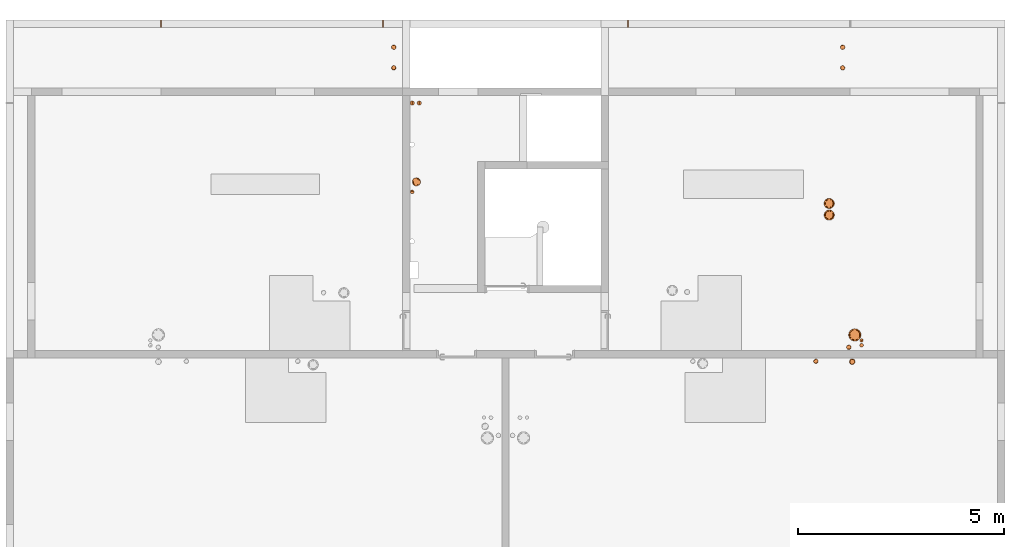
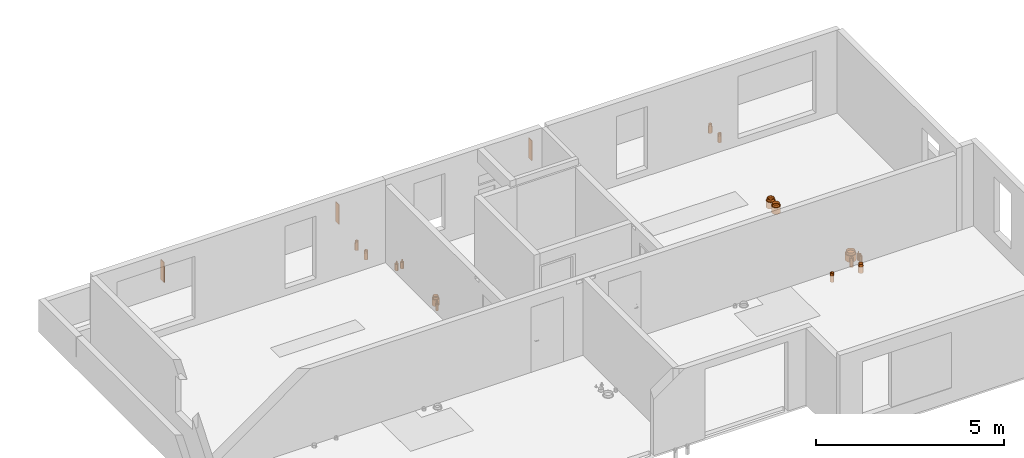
# One storey, part 24 of 28: 19 proxies.
"""IFC2X3 building model written with IfcOpenShell, lengths in centimetres."""

from ifc_helpers import new_model, entity, si_unit, converted_unit, derived_unit, direction, frame, frame_2d, origin, origin_2d_with_axis, place, context, subcontext, project, spatial, rectangle, circle, hollow_circle, extrude, source, transform, mapped, material, type_object, type_shapes, element, save


model = new_model("IFC2X3")

# Units and contexts
model_context = context("Model", 3, precision=0.001, world=origin(), true_north=direction((6.12303176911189e-17, 1.0)))
body_context = subcontext(model_context, "Body", "Model", "MODEL_VIEW")
ifc_project = project(units=[si_unit("LENGTHUNIT", "METRE", prefix="CENTI"), si_unit("AREAUNIT", "SQUARE_METRE"), si_unit("VOLUMEUNIT", "CUBIC_METRE"), converted_unit("PLANEANGLEUNIT", "DEGREE", entity("IfcRatioMeasure", 0.0174532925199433), si_unit("PLANEANGLEUNIT", "RADIAN"), dimensions=[0, 0, 0, 0, 0, 0, 0]), si_unit("MASSUNIT", "GRAM", prefix="KILO"), derived_unit("MASSDENSITYUNIT", [(si_unit("MASSUNIT", "GRAM", prefix="KILO"), 1), (si_unit("LENGTHUNIT", "METRE"), -3)]), si_unit("TIMEUNIT", "SECOND"), si_unit("FREQUENCYUNIT", "HERTZ"), si_unit("THERMODYNAMICTEMPERATUREUNIT", "DEGREE_CELSIUS"), derived_unit("THERMALTRANSMITTANCEUNIT", [(si_unit("MASSUNIT", "GRAM", prefix="KILO"), 1), (si_unit("THERMODYNAMICTEMPERATUREUNIT", "KELVIN"), -1), (si_unit("TIMEUNIT", "SECOND"), -3)]), derived_unit("VOLUMETRICFLOWRATEUNIT", [(si_unit("LENGTHUNIT", "METRE"), 3), (si_unit("TIMEUNIT", "SECOND"), -1)]), si_unit("ELECTRICCURRENTUNIT", "AMPERE"), si_unit("ELECTRICVOLTAGEUNIT", "VOLT"), si_unit("POWERUNIT", "WATT"), si_unit("FORCEUNIT", "NEWTON"), si_unit("ILLUMINANCEUNIT", "LUX"), si_unit("LUMINOUSFLUXUNIT", "LUMEN"), si_unit("LUMINOUSINTENSITYUNIT", "CANDELA"), derived_unit("USERDEFINED", [(si_unit("MASSUNIT", "GRAM", prefix="KILO"), -1), (si_unit("LENGTHUNIT", "METRE"), -2), (si_unit("TIMEUNIT", "SECOND"), 3), (si_unit("LUMINOUSFLUXUNIT", "LUMEN"), 1)]), derived_unit("LINEARVELOCITYUNIT", [(si_unit("LENGTHUNIT", "METRE"), 1), (si_unit("TIMEUNIT", "SECOND"), -1)]), si_unit("PRESSUREUNIT", "PASCAL"), derived_unit("USERDEFINED", [(si_unit("LENGTHUNIT", "METRE"), -2), (si_unit("MASSUNIT", "GRAM", prefix="KILO"), 1), (si_unit("TIMEUNIT", "SECOND"), -2)])], contexts=[model_context])

# Site, building, storey
site_placement = place(None, origin())
site = spatial("IfcSite", under=ifc_project, at=site_placement, Name="Default", CompositionType="ELEMENT")
building_placement = place(site_placement, origin())
building = spatial("IfcBuilding", under=site, at=building_placement, Name="CAGE 03", CompositionType="ELEMENT")
storey_placement = place(building_placement, frame((0.0, 0.0, 1420.0)))
storey = spatial("IfcBuildingStorey", under=building, at=storey_placement, Name="R+5", CompositionType="ELEMENT", Elevation=1420.0)

# Proxies
ifc_material_1 = material(Name="BBGO_Résa")
building_element_proxy_type_1 = type_object("IfcBuildingElementProxyType", Name="J.F.", PredefinedType="NOTDEFINED", material=ifc_material_1)
shared_shape_1 = source(origin(), body_context, "Body", "SweptSolid", [
    extrude(rectangle(XDim=1.99999999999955, YDim=18.0000000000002, at=frame_2d((0.0, -8.65973959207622e-13), x_axis=(1.0, 0.0))), frame((6246.36582014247, 5284.66066607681, 1460.0)), (0.0, 0.0, 1.0), 64.9999999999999),
])
type_shapes(building_element_proxy_type_1, [shared_shape_1])
proxy_1_placement = place(storey_placement, frame((0.0, 0.0, -1420.0)))
element("IfcBuildingElementProxy", 1, at=proxy_1_placement, inside=storey, type_object=building_element_proxy_type_1, material=ifc_material_1, Name="BBGO-Résa rect et circ:J.F.", ObjectType="J.F.", context=body_context, shape_type="MappedRepresentation", body=[
    mapped(shared_shape_1, transform((0.0, 0.0, 0.0), scale=1.0)),
])
building_element_proxy_type_2 = type_object("IfcBuildingElementProxyType", Name="J.F.", PredefinedType="NOTDEFINED", material=ifc_material_1)
shared_shape_2 = source(origin(), body_context, "Body", "SweptSolid", [
    extrude(rectangle(XDim=1.99999999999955, YDim=18.0000000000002, at=origin_2d_with_axis()), frame((6784.3658201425, 5284.6606660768, 1460.0)), (0.0, 0.0, 1.0), 64.9999999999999),
])
type_shapes(building_element_proxy_type_2, [shared_shape_2])
proxy_2_placement = place(storey_placement, frame((0.0, 0.0, -1420.0)))
element("IfcBuildingElementProxy", 2, at=proxy_2_placement, inside=storey, type_object=building_element_proxy_type_2, material=ifc_material_1, Name="BBGO-Résa rect et circ:J.F.", ObjectType="J.F.", context=body_context, shape_type="MappedRepresentation", body=[
    mapped(shared_shape_2, transform((0.0, 0.0, 0.0), scale=1.0)),
])
building_element_proxy_type_3 = type_object("IfcBuildingElementProxyType", Name="J.F.", PredefinedType="NOTDEFINED", material=ifc_material_1)
shared_shape_3 = source(origin(), body_context, "Body", "SweptSolid", [
    extrude(rectangle(XDim=1.99999999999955, YDim=18.0000000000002, at=frame_2d((0.0, -8.65973959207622e-13), x_axis=(1.0, 0.0))), frame((7378.3658201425, 5284.6606660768, 1460.0)), (0.0, 0.0, 1.0), 64.9999999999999),
])
type_shapes(building_element_proxy_type_3, [shared_shape_3])
proxy_3_placement = place(storey_placement, frame((0.0, 0.0, -1420.0)))
element("IfcBuildingElementProxy", 3, at=proxy_3_placement, inside=storey, type_object=building_element_proxy_type_3, material=ifc_material_1, Name="BBGO-Résa rect et circ:J.F.", ObjectType="J.F.", context=body_context, shape_type="MappedRepresentation", body=[
    mapped(shared_shape_3, transform((0.0, 0.0, 0.0), scale=1.0)),
])
ifc_material_2 = material(Name="Conduit VMC")
building_element_proxy_type_4 = type_object("IfcBuildingElementProxyType", Name="CFO235 P210", PredefinedType="NOTDEFINED", material=ifc_material_2)
shared_shape_4 = source(origin(), body_context, "Body", "SweptSolid", [
    extrude(circle(Radius=12.5, at=frame_2d((0.0, -2.01943071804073e-14), x_axis=(1.0, 0.0))), frame((0.0, 0.0, -21.0)), (0.0, 0.0, 1.0), 21.0),
    extrude(hollow_circle(Radius=10.0, WallThickness=0.5, at=frame_2d((0.0, -1.61554457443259e-14), x_axis=(1.0, 0.0))), frame((0.0, 0.0, -21.0)), (0.0, 0.0, 1.0), 28.5),
])
type_shapes(building_element_proxy_type_4, [shared_shape_4])
for number, where, name in (
    (4, (7866.12110627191, 4848.9015173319, 0.0), "Galette - Résa - PVC4:CFO235 P210"),
    (5, (7866.12110627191, 4820.81133445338, 0.0), "Galette - Résa - PVC4:CFO235 P210"),
):
    element("IfcBuildingElementProxy", number, at=place(storey_placement, frame(where)), inside=storey, type_object=building_element_proxy_type_4, material=ifc_material_2, Name=name, ObjectType="CFO235 P210", context=body_context, shape_type="MappedRepresentation", body=[
        mapped(shared_shape_4, transform((0.0, 0.0, 0.0), scale=1.0)),
    ])
ifc_material_3 = material(Name="Conduit EP")
building_element_proxy_type_5 = type_object("IfcBuildingElementProxyType", Name="EP 101", PredefinedType="NOTDEFINED", material=ifc_material_3)
shared_shape_5 = source(origin(), body_context, "Body", "SweptSolid", [
    extrude(circle(Radius=5.5, at=frame_2d((0.0, -8.88549515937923e-15), x_axis=(1.0, 0.0))), frame((0.0, 0.0, -21.0)), (0.0, 0.0, 1.0), 21.0),
    extrude(hollow_circle(Radius=5.0, WallThickness=0.25, at=frame_2d((0.0, -8.07772287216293e-15), x_axis=(1.0, 0.0))), frame((0.0, 0.0, -21.0)), (0.0, 0.0, 1.0), 28.5),
])
type_shapes(building_element_proxy_type_5, [shared_shape_5])
for number, where, name in (
    (6, (6810.59388087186, 5227.66066606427, 0.0), "Galette - Résa - PVC4:EP 101"),
    (7, (6810.59388930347, 5177.66066606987, 0.0), "Galette - Résa - PVC4:EP 101"),
    (8, (7898.63697063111, 5227.66066606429, 0.0), "Galette - Résa - PVC4:EP 101"),
    (9, (7898.63697906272, 5177.66066606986, 0.0), "Galette - Résa - PVC4:EP 101"),
):
    element("IfcBuildingElementProxy", number, at=place(storey_placement, frame(where)), inside=storey, type_object=building_element_proxy_type_5, material=ifc_material_3, Name=name, ObjectType="EP 101", context=body_context, shape_type="MappedRepresentation", body=[
        mapped(shared_shape_5, transform((0.0, 0.0, 0.0), scale=1.0)),
    ])
ifc_material_4 = material(Name="Conduit EU")
building_element_proxy_type_6 = type_object("IfcBuildingElementProxyType", Name="CFO125 P110", PredefinedType="NOTDEFINED", material=ifc_material_4)
shared_shape_6 = source(origin(), body_context, "Body", "SweptSolid", [
    extrude(circle(Radius=5.5, at=frame_2d((0.0, -8.88549515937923e-15), x_axis=(1.0, 0.0))), frame((0.0, 0.0, -21.0)), (0.0, 0.0, 1.0), 21.0),
    extrude(hollow_circle(Radius=5.0, WallThickness=0.25, at=frame_2d((0.0, -8.07772287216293e-15), x_axis=(1.0, 0.0))), frame((0.0, 0.0, -21.0)), (0.0, 0.0, 1.0), 28.5),
])
type_shapes(building_element_proxy_type_6, [shared_shape_6])
for number, where, name in (
    (10, (7913.6997706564, 4500.32488712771, 0.0), "Galette - Résa - PVC4:CFO125 P110"),
    (11, (7833.87946784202, 4466.32821753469, 0.0), "Galette - Résa - PVC4:CFO125 P110"),
):
    element("IfcBuildingElementProxy", number, at=place(storey_placement, frame(where)), inside=storey, type_object=building_element_proxy_type_6, material=ifc_material_4, Name=name, ObjectType="CFO125 P110", context=body_context, shape_type="MappedRepresentation", body=[
        mapped(shared_shape_6, transform((0.0, 0.0, 0.0), scale=1.0)),
    ])
ifc_material_5 = material(Name="Circuit CHF Aller")
building_element_proxy_type_7 = type_object("IfcBuildingElementProxyType", Name="CHF Aller 41", PredefinedType="NOTDEFINED", material=ifc_material_5)
shared_shape_7 = source(origin(), body_context, "Body", "SweptSolid", [
    extrude(circle(Radius=5.0, at=frame_2d((0.0, -8.07772287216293e-15), x_axis=(1.0, 0.0))), frame((0.0, 0.0, -21.0)), (0.0, 0.0, 1.0), 21.0),
    extrude(hollow_circle(Radius=2.0, WallThickness=0.4, at=frame_2d((0.0, -3.23108914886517e-15), x_axis=(1.0, 0.0))), frame((0.0, 0.0, -21.0)), (0.0, 0.0, 1.0), 28.5),
])
type_shapes(building_element_proxy_type_7, [shared_shape_7])
proxy_4_placement = place(storey_placement, frame((6872.36582014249, 5092.3606660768, 0.0)))
element("IfcBuildingElementProxy", 12, at=proxy_4_placement, inside=storey, type_object=building_element_proxy_type_7, material=ifc_material_5, Name="Galette - Résa - PVC4:CHF Aller 41", ObjectType="CHF Aller 41", context=body_context, shape_type="MappedRepresentation", body=[
    mapped(shared_shape_7, transform((0.0, 0.0, 0.0), scale=1.0)),
])
ifc_material_6 = material(Name="Circuit CHF Retour")
building_element_proxy_type_8 = type_object("IfcBuildingElementProxyType", Name="CHF Retour 43", PredefinedType="NOTDEFINED", material=ifc_material_6)
shared_shape_8 = source(origin(), body_context, "Body", "SweptSolid", [
    extrude(circle(Radius=5.0, at=frame_2d((0.0, -8.07772287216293e-15), x_axis=(1.0, 0.0))), frame((0.0, 0.0, -21.0)), (0.0, 0.0, 1.0), 21.0),
    extrude(hollow_circle(Radius=2.0, WallThickness=0.4, at=frame_2d((0.0, -3.23108914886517e-15), x_axis=(1.0, 0.0))), frame((0.0, 0.0, -21.0)), (0.0, 0.0, 1.0), 28.5),
])
type_shapes(building_element_proxy_type_8, [shared_shape_8])
proxy_5_placement = place(storey_placement, frame((6855.36582014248, 5092.3606660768, 0.0)))
element("IfcBuildingElementProxy", 13, at=proxy_5_placement, inside=storey, type_object=building_element_proxy_type_8, material=ifc_material_6, Name="Galette - Résa - PVC4:CHF Retour 43", ObjectType="CHF Retour 43", context=body_context, shape_type="MappedRepresentation", body=[
    mapped(shared_shape_8, transform((0.0, 0.0, 0.0), scale=1.0)),
])
ifc_material_7 = material(Name="Circuit ECS Retour")
building_element_proxy_type_9 = type_object("IfcBuildingElementProxyType", Name="CFO100 P80", PredefinedType="NOTDEFINED", material=ifc_material_7)
shared_shape_9 = source(origin(), body_context, "Body", "SweptSolid", [
    extrude(circle(Radius=4.0, at=frame_2d((0.0, -6.46217829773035e-15), x_axis=(1.0, 0.0))), frame((0.0, 0.0, -21.0)), (0.0, 0.0, 1.0), 21.0),
    extrude(hollow_circle(Radius=1.0, WallThickness=0.0500000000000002, at=frame_2d((0.0, -1.61554457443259e-15), x_axis=(1.0, 0.0))), frame((0.0, 0.0, -21.0)), (0.0, 0.0, 1.0), 28.5),
])
type_shapes(building_element_proxy_type_9, [shared_shape_9])
proxy_6_placement = place(storey_placement, frame((7944.5447985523, 4517.07558993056, 0.0)))
element("IfcBuildingElementProxy", 14, at=proxy_6_placement, inside=storey, type_object=building_element_proxy_type_9, material=ifc_material_7, Name="Galette - Résa - PVC4:CFO100 P80", ObjectType="CFO100 P80", context=body_context, shape_type="MappedRepresentation", body=[
    mapped(shared_shape_9, transform((0.0, 0.0, 0.0), scale=1.0)),
])
ifc_material_8 = material(Name="Circuit ECS Aller")
building_element_proxy_type_10 = type_object("IfcBuildingElementProxyType", Name="CFO100 P90", PredefinedType="NOTDEFINED", material=ifc_material_8)
shared_shape_10 = source(origin(), body_context, "Body", "SweptSolid", [
    extrude(circle(Radius=4.5, at=frame_2d((0.0, -7.26995058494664e-15), x_axis=(1.0, 0.0))), frame((0.0, 0.0, -21.0)), (0.0, 0.0, 1.0), 21.0),
    extrude(hollow_circle(Radius=1.6, WallThickness=0.05, at=frame_2d((0.0, -2.58487131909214e-15), x_axis=(1.0, 0.0))), frame((0.0, 0.0, -21.0)), (0.0, 0.0, 1.0), 28.5),
])
type_shapes(building_element_proxy_type_10, [shared_shape_10])
proxy_7_placement = place(storey_placement, frame((7944.5447985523, 4505.23903904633, 0.0)))
element("IfcBuildingElementProxy", 15, at=proxy_7_placement, inside=storey, type_object=building_element_proxy_type_10, material=ifc_material_8, Name="Galette - Résa - PVC4:CFO100 P90", ObjectType="CFO100 P90", context=body_context, shape_type="MappedRepresentation", body=[
    mapped(shared_shape_10, transform((0.0, 0.0, 0.0), scale=1.0)),
])
building_element_proxy_type_11 = type_object("IfcBuildingElementProxyType", Name="CFO285 P260", PredefinedType="NOTDEFINED", material=ifc_material_2)
shared_shape_11 = source(origin(), body_context, "Body", "SweptSolid", [
    extrude(circle(Radius=15.0, at=frame_2d((0.0, -2.42331686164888e-14), x_axis=(1.0, 0.0))), frame((0.0, 0.0, -21.0)), (0.0, 0.0, 1.0), 21.0),
    extrude(hollow_circle(Radius=12.5, WallThickness=0.499999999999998, at=frame_2d((0.0, -2.01943071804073e-14), x_axis=(1.0, 0.0))), frame((0.0, 0.0, -21.0)), (0.0, 0.0, 1.0), 28.5),
])
type_shapes(building_element_proxy_type_11, [shared_shape_11])
proxy_8_placement = place(storey_placement, frame((7928.16118039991, 4530.34740146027, 0.0)))
element("IfcBuildingElementProxy", 16, at=proxy_8_placement, inside=storey, type_object=building_element_proxy_type_11, material=ifc_material_2, Name="Galette - Résa - PVC4:CFO285 P260", ObjectType="CFO285 P260", context=body_context, shape_type="MappedRepresentation", body=[
    mapped(shared_shape_11, transform((0.0, 0.0, 0.0), scale=1.0)),
])
building_element_proxy_type_12 = type_object("IfcBuildingElementProxyType", Name="CFO140 P135", PredefinedType="NOTDEFINED", material=ifc_material_2)
shared_shape_12 = source(origin(), body_context, "Body", "SweptSolid", [
    extrude(circle(Radius=7.0, at=frame_2d((0.0, -1.13088120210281e-14), x_axis=(1.0, 0.0))), frame((0.0, 0.0, -21.0)), (0.0, 0.0, 1.0), 21.0),
    extrude(hollow_circle(Radius=6.25, WallThickness=0.25, at=frame_2d((0.0, -1.00971535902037e-14), x_axis=(1.0, 0.0))), frame((0.0, 0.0, -21.0)), (0.0, 0.0, 1.0), 28.5),
])
type_shapes(building_element_proxy_type_12, [shared_shape_12])
proxy_9_placement = place(storey_placement, frame((7921.88582014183, 4465.36426071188, 0.0)))
element("IfcBuildingElementProxy", 17, at=proxy_9_placement, inside=storey, type_object=building_element_proxy_type_12, material=ifc_material_2, Name="Galette - Résa - PVC4:CFO140 P135", ObjectType="CFO140 P135", context=body_context, shape_type="MappedRepresentation", body=[
    mapped(shared_shape_12, transform((0.0, 0.0, 0.0), scale=1.0)),
])
building_element_proxy_type_13 = type_object("IfcBuildingElementProxyType", Name="EP 161", PredefinedType="NOTDEFINED", material=ifc_material_3)
shared_shape_13 = source(origin(), body_context, "Body", "SweptSolid", [
    extrude(circle(Radius=10.0, at=frame_2d((0.0, -1.61554457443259e-14), x_axis=(1.0, 0.0))), frame((0.0, 0.0, -21.0)), (0.0, 0.0, 1.0), 21.0),
    extrude(hollow_circle(Radius=8.0, WallThickness=0.250000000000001, at=frame_2d((0.0, -1.29243565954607e-14), x_axis=(1.0, 0.0))), frame((0.0, 0.0, -21.0)), (0.0, 0.0, 1.0), 28.5),
])
type_shapes(building_element_proxy_type_13, [shared_shape_13])
proxy_10_placement = place(storey_placement, frame((6865.50026930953, 4901.35358864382, 0.0)))
element("IfcBuildingElementProxy", 18, at=proxy_10_placement, inside=storey, type_object=building_element_proxy_type_13, material=ifc_material_3, Name="Galette - Résa - PVC4:EP 161", ObjectType="EP 161", context=body_context, shape_type="MappedRepresentation", body=[
    mapped(shared_shape_13, transform((0.0, 0.0, 0.0), scale=1.0)),
])
ifc_material_9 = material(Name="Circuit EF")
building_element_proxy_type_14 = type_object("IfcBuildingElementProxyType", Name="EF 41", PredefinedType="NOTDEFINED", material=ifc_material_9)
shared_shape_14 = source(origin(), body_context, "Body", "SweptSolid", [
    extrude(circle(Radius=4.5, at=frame_2d((0.0, -7.26995058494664e-15), x_axis=(1.0, 0.0))), frame((0.0, 0.0, -21.0)), (0.0, 0.0, 1.0), 21.0),
    extrude(hollow_circle(Radius=2.2, WallThickness=0.449999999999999, at=frame_2d((0.0, -3.55419806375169e-15), x_axis=(1.0, 0.0))), frame((0.0, 0.0, -21.0)), (0.0, 0.0, 1.0), 28.5),
])
type_shapes(building_element_proxy_type_14, [shared_shape_14])
proxy_11_placement = place(storey_placement, frame((6855.36638671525, 4877.15864997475, 0.0)))
element("IfcBuildingElementProxy", 19, at=proxy_11_placement, inside=storey, type_object=building_element_proxy_type_14, material=ifc_material_9, Name="Galette - Résa - PVC4:EF 41", ObjectType="EF 41", context=body_context, shape_type="MappedRepresentation", body=[
    mapped(shared_shape_14, transform((0.0, 0.0, 0.0), scale=1.0)),
])

save(model, "model.ifc")
